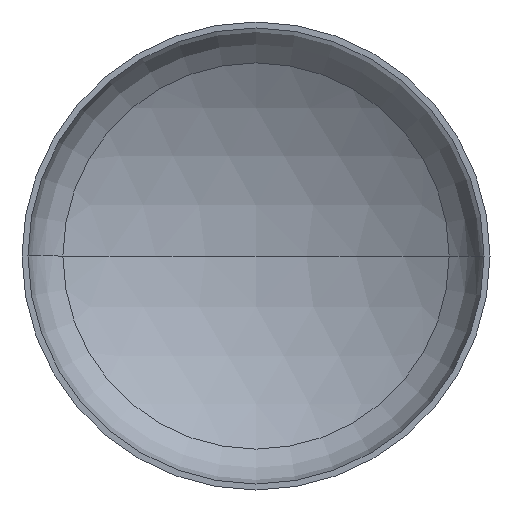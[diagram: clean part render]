
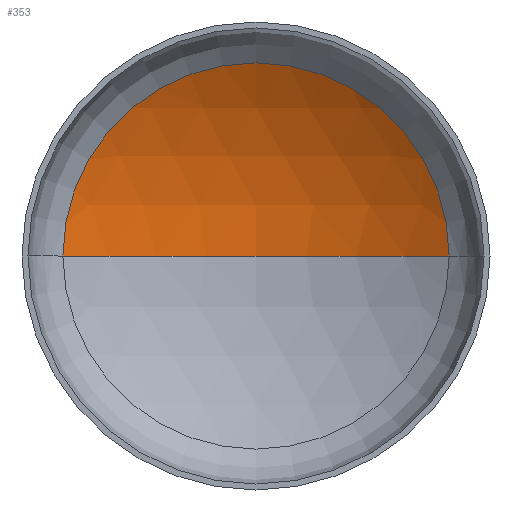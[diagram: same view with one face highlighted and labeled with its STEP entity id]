
A CAD part, front view. The second image highlights one B-rep face of the part: STEP entity #353.
In plain terms, the highlighted spherical face has radius 4000 mm.
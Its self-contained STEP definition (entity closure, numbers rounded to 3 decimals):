
#4 = ORIENTED_EDGE ( 'NONE', *, *, #139, .T. ) ;
#7 = VERTEX_POINT ( 'NONE', #377 ) ;
#16 = ORIENTED_EDGE ( 'NONE', *, *, #141, .F. ) ;
#50 = VERTEX_POINT ( 'NONE', #214 ) ;
#59 = AXIS2_PLACEMENT_3D ( 'NONE', #220, #269, #85 ) ;
#60 = AXIS2_PLACEMENT_3D ( 'NONE', #316, #174, #192 ) ;
#68 = AXIS2_PLACEMENT_3D ( 'NONE', #287, #196, #362 ) ;
#85 = DIRECTION ( 'NONE',  ( -1., 0., 0. ) ) ;
#95 = EDGE_LOOP ( 'NONE', ( #16, #4, #108 ) ) ;
#108 = ORIENTED_EDGE ( 'NONE', *, *, #134, .T. ) ;
#122 = VERTEX_POINT ( 'NONE', #165 ) ;
#134 = EDGE_CURVE ( 'NONE', #122, #7, #374, .T. ) ;
#139 = EDGE_CURVE ( 'NONE', #50, #122, #239, .T. ) ;
#141 = EDGE_CURVE ( 'NONE', #50, #7, #368, .T. ) ;
#144 = SPHERICAL_SURFACE ( 'NONE', #203, 4000. ) ;
#165 = CARTESIAN_POINT ( 'NONE',  ( 2063.158, 779.671, 0. ) ) ;
#170 = CARTESIAN_POINT ( 'NONE',  ( 0., -2647.191, 0. ) ) ;
#174 = DIRECTION ( 'NONE',  ( 0., 0., 1. ) ) ;
#192 = DIRECTION ( 'NONE',  ( 1., 0., 0. ) ) ;
#196 = DIRECTION ( 'NONE',  ( 0., -1., 0. ) ) ;
#203 = AXIS2_PLACEMENT_3D ( 'NONE', #170, #251, #314 ) ;
#214 = CARTESIAN_POINT ( 'NONE',  ( 0., 1352.809, 0. ) ) ;
#220 = CARTESIAN_POINT ( 'NONE',  ( 0., -2647.191, 0. ) ) ;
#239 = CIRCLE ( 'NONE', #59, 4000. ) ;
#251 = DIRECTION ( 'NONE',  ( 0., 0., -1. ) ) ;
#269 = DIRECTION ( 'NONE',  ( 0., 0., -1. ) ) ;
#270 = FACE_OUTER_BOUND ( 'NONE', #95, .T. ) ;
#287 = CARTESIAN_POINT ( 'NONE',  ( 0., 779.671, 0. ) ) ;
#314 = DIRECTION ( 'NONE',  ( -1., 0., 0. ) ) ;
#316 = CARTESIAN_POINT ( 'NONE',  ( 0., -2647.191, 0. ) ) ;
#353 = ADVANCED_FACE ( 'NONE', ( #270 ), #144, .F. ) ;
#362 = DIRECTION ( 'NONE',  ( 1., 0., 0. ) ) ;
#368 = CIRCLE ( 'NONE', #60, 4000. ) ;
#374 = CIRCLE ( 'NONE', #68, 2063.158 ) ;
#377 = CARTESIAN_POINT ( 'NONE',  ( -2063.158, 779.671, 0. ) ) ;
